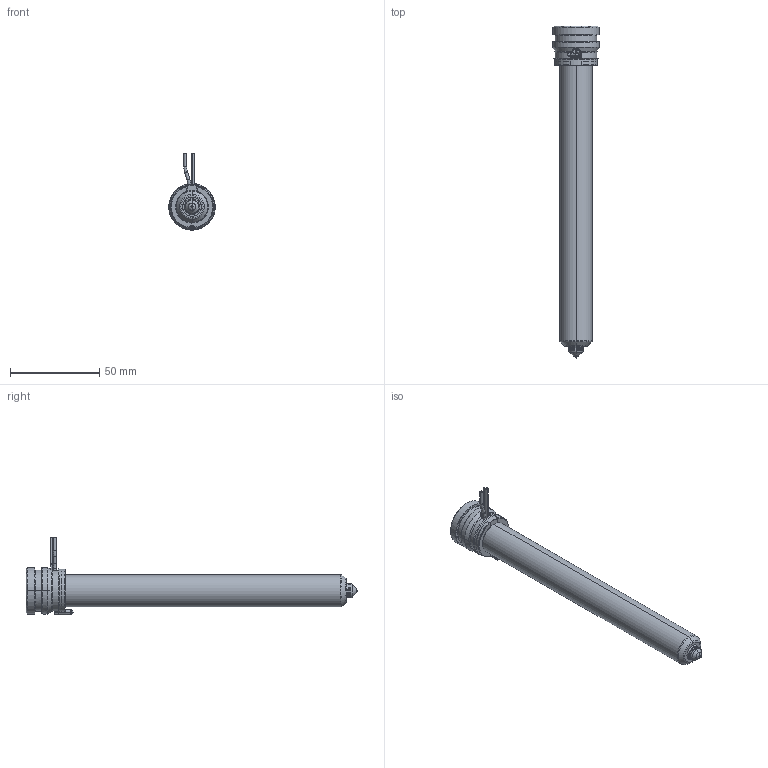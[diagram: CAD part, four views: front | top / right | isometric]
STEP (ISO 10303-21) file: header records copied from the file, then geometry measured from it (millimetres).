
FILE_DESCRIPTION((''),'2;1');
FILE_NAME('MPN-08-24-VX8-166-A','2026-02-05T12:00:35',('UPTIO'),('Thermoplay S.p.A.'),'CREO PARAMETRIC BY PTC INC, 2023494','CREO PARAMETRIC BY PTC INC, 2023494','');
FILE_SCHEMA(('CONFIG_CONTROL_DESIGN','SHAPE_APPEARANCE_LAYERS_GROUPS'));
Length unit declared in the file: millimetre
Products named in the file (1): MPN-08-24-VX8-166-A
Bounding box: 26 x 185.5 x 43.5 mm (x, y, z)
Volume: 34568 mm3; surface area: 45269 mm2
Topology: 2 solids, 3 shells, 545 faces, 1438 edges, 891 vertices
Faces by surface type: cylinder 180, plane 143, bspline 82, cone 62, torus 62, sphere 10, extrusion 6
Entity records: 29289 total; most frequent: CARTESIAN_POINT 13050, ORIENTED_EDGE 2860, DIRECTION 2578, EDGE_CURVE 1430, AXIS2_PLACEMENT_3D 1007, VERTEX_POINT 891, EDGE_LOOP 573, VECTOR 564
